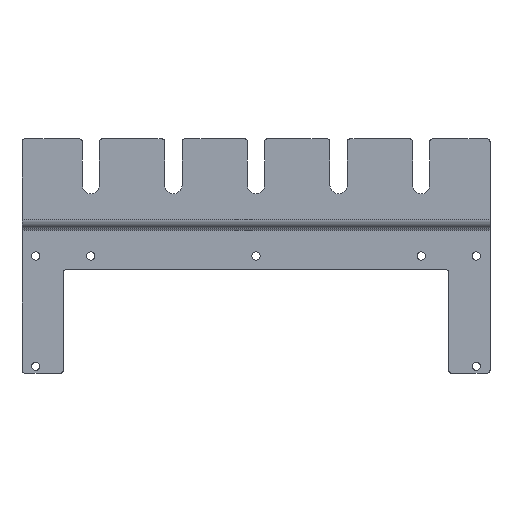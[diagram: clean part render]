
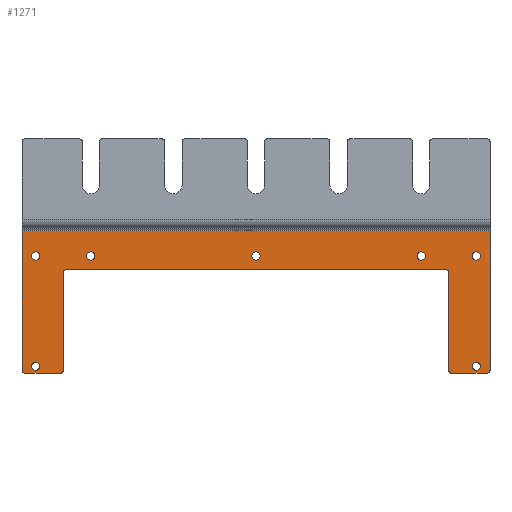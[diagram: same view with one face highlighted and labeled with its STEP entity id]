
A CAD part, top view. The second image highlights one B-rep face of the part: STEP entity #1271.
In plain terms, the highlighted planar face has unit normal (0, 0, 1).
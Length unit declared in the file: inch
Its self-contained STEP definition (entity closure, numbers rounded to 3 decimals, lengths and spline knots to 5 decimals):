
#15=FACE_BOUND('',#144,.T.);
#16=FACE_BOUND('',#145,.T.);
#17=FACE_BOUND('',#146,.T.);
#18=FACE_BOUND('',#147,.T.);
#19=FACE_BOUND('',#148,.T.);
#20=FACE_BOUND('',#149,.T.);
#21=FACE_BOUND('',#150,.T.);
#32=PLANE('',#1362);
#72=FACE_OUTER_BOUND('',#143,.T.);
#143=EDGE_LOOP('',(#873,#874,#875,#876,#877,#878,#879,#880,#881,#882,#883,
#884,#885,#886));
#144=EDGE_LOOP('',(#887));
#145=EDGE_LOOP('',(#888));
#146=EDGE_LOOP('',(#889));
#147=EDGE_LOOP('',(#890));
#148=EDGE_LOOP('',(#891));
#149=EDGE_LOOP('',(#892));
#150=EDGE_LOOP('',(#893));
#224=LINE('',#1904,#347);
#230=LINE('',#1919,#353);
#233=LINE('',#1931,#356);
#236=LINE('',#1937,#359);
#237=LINE('',#1939,#360);
#238=LINE('',#1941,#361);
#239=LINE('',#1945,#362);
#240=LINE('',#1948,#363);
#347=VECTOR('',#1501,0.3937);
#353=VECTOR('',#1515,0.3937);
#356=VECTOR('',#1526,0.3937);
#359=VECTOR('',#1531,0.3937);
#360=VECTOR('',#1532,0.3937);
#361=VECTOR('',#1533,0.3937);
#362=VECTOR('',#1536,0.3937);
#363=VECTOR('',#1539,0.3937);
#468=CIRCLE('',#1351,0.025);
#470=CIRCLE('',#1355,0.025);
#472=CIRCLE('',#1359,0.025);
#474=CIRCLE('',#1363,0.025);
#475=CIRCLE('',#1364,0.025);
#476=CIRCLE('',#1365,0.025);
#477=CIRCLE('',#1366,0.0375);
#478=CIRCLE('',#1367,0.0375);
#479=CIRCLE('',#1368,0.0375);
#480=CIRCLE('',#1369,0.0375);
#481=CIRCLE('',#1370,0.0375);
#482=CIRCLE('',#1371,0.0375);
#483=CIRCLE('',#1372,0.0375);
#536=VERTEX_POINT('',#1894);
#537=VERTEX_POINT('',#1895);
#540=VERTEX_POINT('',#1903);
#542=VERTEX_POINT('',#1909);
#543=VERTEX_POINT('',#1910);
#546=VERTEX_POINT('',#1921);
#547=VERTEX_POINT('',#1922);
#550=VERTEX_POINT('',#1930);
#552=VERTEX_POINT('',#1936);
#553=VERTEX_POINT('',#1938);
#554=VERTEX_POINT('',#1940);
#555=VERTEX_POINT('',#1942);
#556=VERTEX_POINT('',#1944);
#557=VERTEX_POINT('',#1947);
#558=VERTEX_POINT('',#1950);
#559=VERTEX_POINT('',#1952);
#560=VERTEX_POINT('',#1954);
#561=VERTEX_POINT('',#1956);
#562=VERTEX_POINT('',#1958);
#563=VERTEX_POINT('',#1960);
#564=VERTEX_POINT('',#1962);
#658=EDGE_CURVE('',#536,#537,#468,.T.);
#662=EDGE_CURVE('',#540,#537,#224,.T.);
#665=EDGE_CURVE('',#542,#543,#470,.T.);
#670=EDGE_CURVE('',#536,#543,#230,.T.);
#671=EDGE_CURVE('',#546,#547,#472,.T.);
#675=EDGE_CURVE('',#547,#550,#233,.T.);
#678=EDGE_CURVE('',#546,#552,#236,.T.);
#679=EDGE_CURVE('',#553,#552,#237,.T.);
#680=EDGE_CURVE('',#553,#554,#238,.T.);
#681=EDGE_CURVE('',#555,#554,#474,.T.);
#682=EDGE_CURVE('',#556,#555,#239,.T.);
#683=EDGE_CURVE('',#540,#556,#475,.T.);
#684=EDGE_CURVE('',#542,#557,#240,.T.);
#685=EDGE_CURVE('',#550,#557,#476,.T.);
#686=EDGE_CURVE('',#558,#558,#477,.T.);
#687=EDGE_CURVE('',#559,#559,#478,.T.);
#688=EDGE_CURVE('',#560,#560,#479,.T.);
#689=EDGE_CURVE('',#561,#561,#480,.T.);
#690=EDGE_CURVE('',#562,#562,#481,.T.);
#691=EDGE_CURVE('',#563,#563,#482,.T.);
#692=EDGE_CURVE('',#564,#564,#483,.T.);
#873=ORIENTED_EDGE('',*,*,#671,.F.);
#874=ORIENTED_EDGE('',*,*,#678,.T.);
#875=ORIENTED_EDGE('',*,*,#679,.F.);
#876=ORIENTED_EDGE('',*,*,#680,.T.);
#877=ORIENTED_EDGE('',*,*,#681,.F.);
#878=ORIENTED_EDGE('',*,*,#682,.F.);
#879=ORIENTED_EDGE('',*,*,#683,.F.);
#880=ORIENTED_EDGE('',*,*,#662,.T.);
#881=ORIENTED_EDGE('',*,*,#658,.F.);
#882=ORIENTED_EDGE('',*,*,#670,.T.);
#883=ORIENTED_EDGE('',*,*,#665,.F.);
#884=ORIENTED_EDGE('',*,*,#684,.T.);
#885=ORIENTED_EDGE('',*,*,#685,.F.);
#886=ORIENTED_EDGE('',*,*,#675,.F.);
#887=ORIENTED_EDGE('',*,*,#686,.T.);
#888=ORIENTED_EDGE('',*,*,#687,.T.);
#889=ORIENTED_EDGE('',*,*,#688,.T.);
#890=ORIENTED_EDGE('',*,*,#689,.T.);
#891=ORIENTED_EDGE('',*,*,#690,.T.);
#892=ORIENTED_EDGE('',*,*,#691,.T.);
#893=ORIENTED_EDGE('',*,*,#692,.T.);
#1271=ADVANCED_FACE('',(#72,#15,#16,#17,#18,#19,#20,#21),#32,.F.);
#1351=AXIS2_PLACEMENT_3D('',#1896,#1493,#1494);
#1355=AXIS2_PLACEMENT_3D('',#1911,#1506,#1507);
#1359=AXIS2_PLACEMENT_3D('',#1923,#1518,#1519);
#1362=AXIS2_PLACEMENT_3D('',#1935,#1529,#1530);
#1363=AXIS2_PLACEMENT_3D('',#1943,#1534,#1535);
#1364=AXIS2_PLACEMENT_3D('',#1946,#1537,#1538);
#1365=AXIS2_PLACEMENT_3D('',#1949,#1540,#1541);
#1366=AXIS2_PLACEMENT_3D('',#1951,#1542,#1543);
#1367=AXIS2_PLACEMENT_3D('',#1953,#1544,#1545);
#1368=AXIS2_PLACEMENT_3D('',#1955,#1546,#1547);
#1369=AXIS2_PLACEMENT_3D('',#1957,#1548,#1549);
#1370=AXIS2_PLACEMENT_3D('',#1959,#1550,#1551);
#1371=AXIS2_PLACEMENT_3D('',#1961,#1552,#1553);
#1372=AXIS2_PLACEMENT_3D('',#1963,#1554,#1555);
#1493=DIRECTION('center_axis',(0.,0.,1.));
#1494=DIRECTION('ref_axis',(-0.707,0.707,0.));
#1501=DIRECTION('',(0.,1.,0.));
#1506=DIRECTION('center_axis',(0.,0.,1.));
#1507=DIRECTION('ref_axis',(0.707,0.707,0.));
#1515=DIRECTION('',(1.,0.,0.));
#1518=DIRECTION('center_axis',(0.,0.,-1.));
#1519=DIRECTION('ref_axis',(0.707,-0.707,0.));
#1526=DIRECTION('',(-1.,0.,0.));
#1529=DIRECTION('center_axis',(0.,0.,-1.));
#1530=DIRECTION('ref_axis',(0.,1.,0.));
#1531=DIRECTION('',(0.,1.,0.));
#1532=DIRECTION('',(1.,0.,0.));
#1533=DIRECTION('',(0.,-1.,0.));
#1534=DIRECTION('center_axis',(0.,0.,-1.));
#1535=DIRECTION('ref_axis',(-0.707,-0.707,0.));
#1536=DIRECTION('',(-1.,0.,0.));
#1537=DIRECTION('center_axis',(0.,0.,-1.));
#1538=DIRECTION('ref_axis',(0.707,-0.707,0.));
#1539=DIRECTION('',(0.,-1.,0.));
#1540=DIRECTION('center_axis',(0.,0.,-1.));
#1541=DIRECTION('ref_axis',(-0.707,-0.707,0.));
#1542=DIRECTION('center_axis',(0.,0.,-1.));
#1543=DIRECTION('ref_axis',(-1.,0.,0.));
#1544=DIRECTION('center_axis',(0.,0.,-1.));
#1545=DIRECTION('ref_axis',(1.,0.,0.));
#1546=DIRECTION('center_axis',(0.,0.,-1.));
#1547=DIRECTION('ref_axis',(-1.,0.,0.));
#1548=DIRECTION('center_axis',(0.,0.,-1.));
#1549=DIRECTION('ref_axis',(-1.,0.,0.));
#1550=DIRECTION('center_axis',(0.,0.,-1.));
#1551=DIRECTION('ref_axis',(1.,0.,0.));
#1552=DIRECTION('center_axis',(0.,0.,-1.));
#1553=DIRECTION('ref_axis',(1.,0.,0.));
#1554=DIRECTION('center_axis',(0.,0.,-1.));
#1555=DIRECTION('ref_axis',(1.,0.,0.));
#1894=CARTESIAN_POINT('',(-1.725,-0.4375,0.0625));
#1895=CARTESIAN_POINT('',(-1.75,-0.4625,0.0625));
#1896=CARTESIAN_POINT('Origin',(-1.725,-0.4625,0.0625));
#1903=CARTESIAN_POINT('',(-1.75,-1.35,0.0625));
#1904=CARTESIAN_POINT('',(-1.75,-1.375,0.0625));
#1909=CARTESIAN_POINT('',(1.75,-0.4625,0.0625));
#1910=CARTESIAN_POINT('',(1.725,-0.4375,0.0625));
#1911=CARTESIAN_POINT('Origin',(1.725,-0.4625,0.0625));
#1919=CARTESIAN_POINT('',(-0.875,-0.4375,0.0625));
#1921=CARTESIAN_POINT('',(2.125,-1.35,0.0625));
#1922=CARTESIAN_POINT('',(2.1,-1.375,0.0625));
#1923=CARTESIAN_POINT('Origin',(2.1,-1.35,0.0625));
#1930=CARTESIAN_POINT('',(1.775,-1.375,0.0625));
#1931=CARTESIAN_POINT('',(0.,-1.375,0.0625));
#1935=CARTESIAN_POINT('Origin',(0.,-1.375,0.0625));
#1936=CARTESIAN_POINT('',(2.125,-0.08219,0.0625));
#1937=CARTESIAN_POINT('',(2.125,0.,0.0625));
#1938=CARTESIAN_POINT('',(-2.125,-0.08219,0.0625));
#1939=CARTESIAN_POINT('',(0.,-0.08219,0.0625));
#1940=CARTESIAN_POINT('',(-2.125,-1.35,0.0625));
#1941=CARTESIAN_POINT('',(-2.125,0.,0.0625));
#1942=CARTESIAN_POINT('',(-2.1,-1.375,0.0625));
#1943=CARTESIAN_POINT('Origin',(-2.1,-1.35,0.0625));
#1944=CARTESIAN_POINT('',(-1.775,-1.375,0.0625));
#1945=CARTESIAN_POINT('',(0.,-1.375,0.0625));
#1946=CARTESIAN_POINT('Origin',(-1.775,-1.35,0.0625));
#1947=CARTESIAN_POINT('',(1.75,-1.35,0.0625));
#1948=CARTESIAN_POINT('',(1.75,-0.90625,0.0625));
#1949=CARTESIAN_POINT('Origin',(1.775,-1.35,0.0625));
#1950=CARTESIAN_POINT('',(-1.9625,-1.3125,0.0625));
#1951=CARTESIAN_POINT('Origin',(-2.,-1.3125,0.0625));
#1952=CARTESIAN_POINT('',(0.0375,-0.3125,0.0625));
#1953=CARTESIAN_POINT('Origin',(0.,-0.3125,0.0625));
#1954=CARTESIAN_POINT('',(-1.9625,-0.3125,0.0625));
#1955=CARTESIAN_POINT('Origin',(-2.,-0.3125,0.0625));
#1956=CARTESIAN_POINT('',(-1.4625,-0.3125,0.0625));
#1957=CARTESIAN_POINT('Origin',(-1.5,-0.3125,0.0625));
#1958=CARTESIAN_POINT('',(1.9625,-1.3125,0.0625));
#1959=CARTESIAN_POINT('Origin',(2.,-1.3125,0.0625));
#1960=CARTESIAN_POINT('',(1.9625,-0.3125,0.0625));
#1961=CARTESIAN_POINT('Origin',(2.,-0.3125,0.0625));
#1962=CARTESIAN_POINT('',(1.4625,-0.3125,0.0625));
#1963=CARTESIAN_POINT('Origin',(1.5,-0.3125,0.0625));
